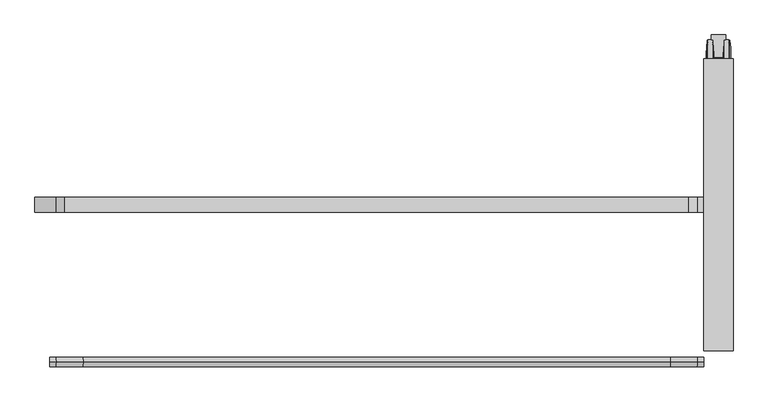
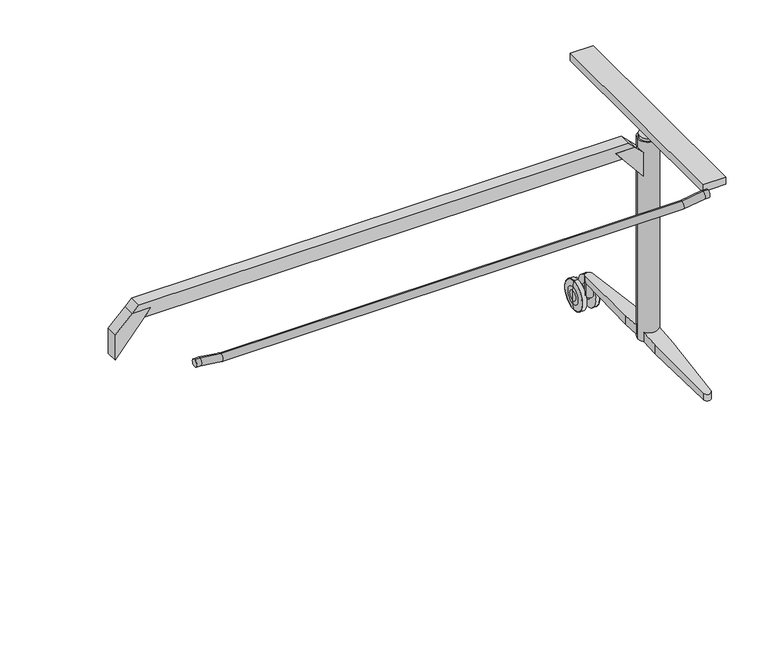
"""IFC4 building model written with IfcOpenShell, lengths in millimetres: furniture geometry, Table_Foldable_Wilkhahn_TimetableLift : 1600w x 800d (615/00)."""

from ifc_helpers import new_model, si_unit, point, frame, frame_2d, origin, place, context, project, spatial, polyline, circle_curve, ellipse_curve, trimmed, segment, composite_curve, outline, extrude, source, transform, mapped, element, save
from ifc_brep_helpers import plane_surface, cylinder_surface, revolved_surface, advanced_brep


def furniture_21161f99(model_context):
    return source(origin(), model_context, "Body", "SolidModel", [
        advanced_brep(
        [(670.4530674, 420.9511544, 26.9613134), (670.4530674, 420.9511544, 53.0387194), (670.4530674, 420.9511544, 40.0000164), (672.5845915, 420.9511544, 0.8972162), (672.5845915, 420.9511544, 79.1028166), (671.0121742, 420.9511544, 63.8876748), (671.0121742, 420.9511544, 16.1123581), (683.5439759, 420.9511544, 1.43e-05), (683.5439759, 420.9511544, 80.0000185), (673.5792938, 420.9511544, 80.0000185), (673.5792938, 420.9511544, 1.43e-05), (685.4530966, 420.9511544, 20.9999281), (685.4530966, 420.9511544, 59.0001048), (685.4530966, 420.9511544, 32.3463502), (685.4530966, 420.9511544, 47.6536826), (705.3531174, 420.9511544, 32.3463502), (705.3531174, 420.9511544, 47.6536826), (705.3531174, 420.9511544, 20.9999281), (705.3531174, 420.9511544, 59.0001048), (707.2622381, 420.9511544, 1.43e-05), (707.2622381, 420.9511544, 80.0000185), (716.3249398, 420.9511544, 1.43e-05), (716.3249398, 420.9511544, 80.0000185), (719.7942336, 420.9511544, 16.1142331), (719.7942336, 420.9511544, 63.8857997), (718.3143443, 420.9511544, 78.2056147), (718.3143443, 420.9511544, 1.7944182), (720.3531466, 420.9511544, 40.0000164), (720.3531466, 420.9511544, 53.0406045), (720.3531466, 420.9511544, 26.9594284)],
        [
            (0, 1, circle_curve(frame((670.4530674, 420.9511544, 40.0000164), z_axis=(-1.0, 0.0, 0.0), x_axis=(0.0, 0.0, 1.0)), 13.038703)),
            (1, 2),
            (2, 0),
            (1, 0, circle_curve(frame((670.4530674, 420.9511544, 40.0000164), z_axis=(-1.0, 0.0, 0.0), x_axis=(0.0, 0.0, 1.0)), 13.038703)),
            (3, 4, circle_curve(frame((672.5845915, 420.9511544, 40.0000164), z_axis=(-1.0, 0.0, 0.0), x_axis=(0.0, 0.0, 1.0)), 39.1028002)),
            (4, 5),
            (5, 6, circle_curve(frame((671.0121742, 420.9511544, 40.0000164), z_axis=(1.0, 0.0, 0.0), x_axis=(0.0, 0.0, 1.0)), 23.8876584)),
            (6, 3),
            (4, 3, circle_curve(frame((672.5845915, 420.9511544, 40.0000164), z_axis=(-1.0, 0.0, 0.0), x_axis=(0.0, 0.0, 1.0)), 39.1028002)),
            (6, 5, circle_curve(frame((671.0121742, 420.9511544, 40.0000164), z_axis=(1.0, 0.0, 0.0), x_axis=(0.0, 0.0, 1.0)), 23.8876584)),
            (7, 8, circle_curve(frame((683.5439759, 420.9511544, 40.0000164), z_axis=(-1.0, 0.0, 0.0), x_axis=(0.0, 0.0, 1.0)), 40.0000021)),
            (8, 9),
            (9, 10, circle_curve(frame((673.5792938, 420.9511544, 40.0000164), z_axis=(1.0, 0.0, 0.0), x_axis=(0.0, 0.0, 1.0)), 40.0000021)),
            (10, 7),
            (8, 7, circle_curve(frame((683.5439759, 420.9511544, 40.0000164), z_axis=(-1.0, 0.0, 0.0), x_axis=(0.0, 0.0, 1.0)), 40.0000021)),
            (10, 9, circle_curve(frame((673.5792938, 420.9511544, 40.0000164), z_axis=(1.0, 0.0, 0.0), x_axis=(0.0, 0.0, 1.0)), 40.0000021)),
            (11, 12, circle_curve(frame((685.4530966, 420.9511544, 40.0000164), z_axis=(-1.0, 0.0, 0.0), x_axis=(0.0, 0.0, 1.0)), 19.0000883)),
            (12, 8),
            (7, 11),
            (12, 11, circle_curve(frame((685.4530966, 420.9511544, 40.0000164), z_axis=(-1.0, 0.0, 0.0), x_axis=(0.0, 0.0, 1.0)), 19.0000883)),
            (13, 14, circle_curve(frame((685.4530966, 420.9511544, 40.0000164), z_axis=(-1.0, 0.0, 0.0), x_axis=(0.0, 0.0, 1.0)), 7.6536662)),
            (14, 12),
            (11, 13),
            (14, 13, circle_curve(frame((685.4530966, 420.9511544, 40.0000164), z_axis=(-1.0, 0.0, 0.0), x_axis=(0.0, 0.0, 1.0)), 7.6536662)),
            (15, 16, circle_curve(frame((705.3531174, 420.9511544, 40.0000164), z_axis=(-1.0, 0.0, 0.0), x_axis=(0.0, 0.0, 1.0)), 7.6536662)),
            (16, 14),
            (13, 15),
            (16, 15, circle_curve(frame((705.3531174, 420.9511544, 40.0000164), z_axis=(-1.0, 0.0, 0.0), x_axis=(0.0, 0.0, 1.0)), 7.6536662)),
            (17, 18, circle_curve(frame((705.3531174, 420.9511544, 40.0000164), z_axis=(-1.0, 0.0, 0.0), x_axis=(0.0, 0.0, 1.0)), 19.0000883)),
            (18, 16),
            (15, 17),
            (18, 17, circle_curve(frame((705.3531174, 420.9511544, 40.0000164), z_axis=(-1.0, 0.0, 0.0), x_axis=(0.0, 0.0, 1.0)), 19.0000883)),
            (19, 20, circle_curve(frame((707.2622381, 420.9511544, 40.0000164), z_axis=(-1.0, 0.0, 0.0), x_axis=(0.0, 0.0, 1.0)), 40.0000021)),
            (20, 18),
            (17, 19),
            (20, 19, circle_curve(frame((707.2622381, 420.9511544, 40.0000164), z_axis=(-1.0, 0.0, 0.0), x_axis=(0.0, 0.0, 1.0)), 40.0000021)),
            (21, 22, circle_curve(frame((716.3249398, 420.9511544, 40.0000164), z_axis=(-1.0, 0.0, 0.0), x_axis=(0.0, 0.0, 1.0)), 40.0000021)),
            (22, 20),
            (19, 21),
            (22, 21, circle_curve(frame((716.3249398, 420.9511544, 40.0000164), z_axis=(-1.0, 0.0, 0.0), x_axis=(0.0, 0.0, 1.0)), 40.0000021)),
            (23, 24, circle_curve(frame((719.7942336, 420.9511544, 40.0000164), z_axis=(-1.0, 0.0, 0.0), x_axis=(0.0, 0.0, 1.0)), 23.8857833)),
            (24, 25),
            (25, 26, circle_curve(frame((718.3143443, 420.9511544, 40.0000164), z_axis=(1.0, 0.0, 0.0), x_axis=(0.0, 0.0, 1.0)), 38.2055982)),
            (26, 23),
            (24, 23, circle_curve(frame((719.7942336, 420.9511544, 40.0000164), z_axis=(-1.0, 0.0, 0.0), x_axis=(0.0, 0.0, 1.0)), 23.8857833)),
            (26, 25, circle_curve(frame((718.3143443, 420.9511544, 40.0000164), z_axis=(1.0, 0.0, 0.0), x_axis=(0.0, 0.0, 1.0)), 38.2055982)),
            (27, 28),
            (28, 29, circle_curve(frame((720.3531466, 420.9511544, 40.0000164), z_axis=(1.0, 0.0, 0.0), x_axis=(0.0, 0.0, 1.0)), 13.0405881)),
            (29, 27),
            (29, 28, circle_curve(frame((720.3531466, 420.9511544, 40.0000164), z_axis=(1.0, 0.0, 0.0), x_axis=(0.0, 0.0, 1.0)), 13.0405881)),
            (5, 1, circle_curve(frame((775.9896451, 420.9511544, 53.0387194), z_axis=(0.0, -1.0, 0.0), x_axis=(-1.0, 0.0, 0.0)), 105.5365777)),
            (0, 6, circle_curve(frame((775.9896451, 420.9511544, 26.9613134), z_axis=(0.0, -1.0, 0.0), x_axis=(-1.0, 0.0, 0.0)), 105.5365777)),
            (9, 4, circle_curve(frame((673.5792938, 420.9511544, 79.0000185), z_axis=(0.0, -1.0, 0.0), x_axis=(-1.0, 0.0, 0.0)), 1.0)),
            (3, 10, circle_curve(frame((673.5792938, 420.9511544, 1.0000143), z_axis=(0.0, -1.0, 0.0), x_axis=(-1.0, 0.0, 0.0)), 1.0)),
            (25, 22, circle_curve(frame((716.3249398, 420.9511544, 78.0000185), z_axis=(0.0, -1.0, 0.0), x_axis=(-1.0, 0.0, 0.0)), 2.0)),
            (21, 26, circle_curve(frame((716.3249398, 420.9511544, 2.0000143), z_axis=(0.0, -1.0, 0.0), x_axis=(-1.0, 0.0, 0.0)), 2.0)),
            (28, 24, circle_curve(frame((614.8531466, 420.9511544, 53.0406045), z_axis=(0.0, -1.0, 0.0), x_axis=(-1.0, 0.0, 0.0)), 105.5)),
            (23, 29, circle_curve(frame((614.8531466, 420.9511544, 26.9594284), z_axis=(0.0, -1.0, 0.0), x_axis=(-1.0, 0.0, 0.0)), 105.5)),
        ],
        [
            plane_surface(frame((670.4530674, 420.9511544, 40.0000164), z_axis=(-1.0, 0.0, 0.0), x_axis=(0.0, 0.0, 1.0))),
            revolved_surface(polyline([(671.0121742, 420.9511544, 63.8876748), (672.5845915, 420.9511544, 79.1028166)]), (736.1531192, 420.9511544, 40.0000164), (1.0, 0.0, 0.0)),
            cylinder_surface(frame((736.1531192, 420.9511544, 40.0000164), z_axis=(1.0, 0.0, 0.0), x_axis=(0.0, 0.0, 1.0)), 40.0000021),
            revolved_surface(polyline([(683.5439759, 420.9511544, 80.0000185), (685.4530966, 420.9511544, 59.0001048)]), (736.1531192, 420.9511544, 40.0000164), (1.0, 0.0, 0.0)),
            plane_surface(frame((685.4530966, 420.9511544, 40.0000164), z_axis=(1.0, 0.0, 0.0), x_axis=(0.0, 0.0, 1.0))),
            cylinder_surface(frame((736.1531192, 420.9511544, 40.0000164), z_axis=(1.0, 0.0, 0.0), x_axis=(0.0, 0.0, 1.0)), 7.6536662),
            plane_surface(frame((705.3531174, 420.9511544, 40.0000164), z_axis=(-1.0, 0.0, 0.0), x_axis=(0.0, 0.0, 1.0))),
            revolved_surface(polyline([(705.3531174, 420.9511544, 59.0001048), (707.2622381, 420.9511544, 80.0000185)]), (736.1531192, 420.9511544, 40.0000164), (1.0, 0.0, 0.0)),
            revolved_surface(polyline([(718.3143443, 420.9511544, 78.2056147), (719.7942336, 420.9511544, 63.8857997)]), (736.1531192, 420.9511544, 40.0000164), (1.0, 0.0, 0.0)),
            plane_surface(frame((720.3531466, 420.9511544, 40.0000164), z_axis=(1.0, 0.0, 0.0), x_axis=(0.0, 0.0, 1.0))),
            revolved_surface(trimmed(ellipse_curve(frame((775.9896451, 420.9511544, 53.0387194), z_axis=(0.0, 1.0, 0.0), x_axis=(-1.0, 0.0, 0.0)), 105.5365777, 105.5365777), [point((670.4530674, 420.9511544, 53.0387194))], [point((671.0121742, 420.9511544, 63.8876748))], True, "CARTESIAN"), (736.1531192, 420.9511544, 40.0000164), (1.0, 0.0, 0.0)),
            revolved_surface(trimmed(ellipse_curve(frame((673.5792938, 420.9511544, 79.0000185), z_axis=(0.0, 1.0, 0.0), x_axis=(-1.0, 0.0, 0.0)), 1.0, 1.0), [point((672.5845915, 420.9511544, 79.1028166))], [point((673.5792938, 420.9511544, 80.0000185))], True, "CARTESIAN"), (736.1531192, 420.9511544, 40.0000164), (1.0, 0.0, 0.0)),
            revolved_surface(trimmed(ellipse_curve(frame((716.3249398, 420.9511544, 78.0000185), z_axis=(0.0, 1.0, 0.0), x_axis=(-1.0, 0.0, 0.0)), 2.0, 2.0), [point((716.3249398, 420.9511544, 80.0000185))], [point((718.3143443, 420.9511544, 78.2056147))], True, "CARTESIAN"), (736.1531192, 420.9511544, 40.0000164), (1.0, 0.0, 0.0)),
            revolved_surface(trimmed(ellipse_curve(frame((614.8531466, 420.9511544, 53.0406045), z_axis=(0.0, 1.0, 0.0), x_axis=(-1.0, 0.0, 0.0)), 105.5, 105.5), [point((719.7942336, 420.9511544, 63.8857997))], [point((720.3531466, 420.9511544, 53.0406045))], True, "CARTESIAN"), (736.1531192, 420.9511544, 40.0000164), (1.0, 0.0, 0.0)),
        ],
        [
            (0, [[1, 2, 3]]),
            (0, [[4, -3, -2]]),
            (1, [[5, 6, 7, 8]]),
            (1, [[9, -8, 10, -6]]),
            (2, [[11, 12, 13, 14]]),
            (2, [[15, -14, 16, -12]]),
            (3, [[17, 18, -11, 19]]),
            (3, [[20, -19, -15, -18]]),
            (4, [[21, 22, -17, 23]]),
            (4, [[24, -23, -20, -22]]),
            (5, [[25, 26, -21, 27]]),
            (5, [[28, -27, -24, -26]]),
            (6, [[29, 30, -25, 31]]),
            (6, [[32, -31, -28, -30]]),
            (7, [[33, 34, -29, 35]]),
            (7, [[36, -35, -32, -34]]),
            (2, [[37, 38, -33, 39]]),
            (2, [[40, -39, -36, -38]]),
            (8, [[41, 42, 43, 44]]),
            (8, [[45, -44, 46, -42]]),
            (9, [[47, 48, 49]]),
            (9, [[-49, 50, -47]]),
            (10, [[-7, 51, -1, 52]]),
            (10, [[-10, -52, -4, -51]]),
            (11, [[-13, 53, -5, 54]]),
            (11, [[-16, -54, -9, -53]]),
            (12, [[-43, 55, -37, 56]]),
            (12, [[-46, -56, -40, -55]]),
            (13, [[-48, 57, -41, 58]]),
            (13, [[-50, -58, -45, -57]]),
        ],
    ),
        advanced_brep(
        [(715.0000252, 110.1174444, 100.5064747), (715.0000252, 110.1174444, 125.9916346), (715.0000252, 48.667977, 121.299221), (715.0000252, 48.667977, 97.6104428), (675.0000252, 110.1174444, 125.9916346), (675.0000252, 110.1174444, 100.5064747), (675.0000252, 60.8207913, 98.1831888), (675.0000252, 60.8207913, 122.227236), (705.3449615, -138.0675149, 88.8098467), (685.2789925, -138.0675149, 88.8098467), (685.3284401, -139.0242798, 106.9666363), (705.2954923, -139.0242831, 106.9666361), (705.2954923, -139.0242831, 88.8098467), (685.3284401, -139.0242798, 88.8098467)],
        [
            (0, 1),
            (1, 2),
            (2, 3),
            (3, 0),
            (4, 5),
            (5, 6),
            (6, 7),
            (7, 4),
            (5, 0),
            (3, 8),
            (8, 9),
            (9, 6),
            (1, 4),
            (7, 10),
            (10, 11, ellipse_curve(frame((695.3119663, -138.4505156, 107.0104502), z_axis=(0.0, -0.07614048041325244, 0.9970971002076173), x_axis=(0.0, -0.9970971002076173, -0.07614048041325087)), 10.0291135, 10.0)),
            (11, 2),
            (8, 12),
            (12, 13, circle_curve(frame((695.3119663, -138.4505156, 88.8098467), z_axis=(0.0, 0.0, -1.0), x_axis=(-1.0, 0.0, 0.0)), 10.0)),
            (13, 9),
            (13, 10),
            (12, 11),
        ],
        [
            plane_surface(frame((715.0000252, 110.1174444, 100.5064747), z_axis=(1.0, 0.0, 0.0), x_axis=(0.0, 0.9988912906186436, 0.04707642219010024))),
            plane_surface(frame((675.0000252, 110.1174444, 100.5064747), z_axis=(-1.0, 0.0, 0.0), x_axis=(0.0, -0.9988912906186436, -0.04707642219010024))),
            plane_surface(frame((715.0000252, -138.0675149, 88.8098467), z_axis=(0.0, 0.04707642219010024, -0.9988912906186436), x_axis=(-1.0, 0.0, 0.0))),
            plane_surface(frame((715.0000252, 110.1174444, 125.9916346), z_axis=(0.0, -0.07614048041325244, 0.9970971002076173), x_axis=(-1.0, 0.0, 0.0))),
            plane_surface(frame((715.0000252, -149.5346363, 88.8098467), z_axis=(0.0, 0.0, -1.0), x_axis=(-1.0, 0.0, 0.0))),
            plane_surface(frame((685.3284401, -139.0242798, 234.8098558), z_axis=(-0.9986671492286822, -0.05161322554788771, 0.0), x_axis=(0.0, 0.0, -1.0))),
            cylinder_surface(frame((695.3119663, -138.4505156, -14.1901527), z_axis=(0.0, 0.0, -1.0), x_axis=(-1.0, 0.0, 0.0)), 10.0),
            plane_surface(frame((718.1772387, 110.1174444, 234.8098558), z_axis=(0.9986659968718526, -0.05163551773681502, 0.0), x_axis=(0.0, 0.0, -1.0))),
            plane_surface(frame((715.0000252, 110.1174444, 100.5064747), z_axis=(0.0, 1.0, 0.0), x_axis=(-1.0, 0.0, 0.0))),
        ],
        [
            (0, [[1, 2, 3, 4]]),
            (1, [[5, 6, 7, 8]]),
            (2, [[9, -4, 10, 11, 12, -6]]),
            (3, [[13, -8, 14, 15, 16, -2]]),
            (4, [[-11, 17, 18, 19]]),
            (5, [[20, -14, -7, -12, -19]]),
            (6, [[-20, -18, 21, -15]]),
            (7, [[-21, -17, -10, -3, -16]]),
            (8, [[-1, -9, -5, -13]]),
        ],
    ),
        advanced_brep(
        [(715.0000252, 141.7848644, 125.5064747), (715.0000252, 141.7848644, 100.5064747), (715.0000252, 203.2343319, 97.6104428), (715.0000252, 203.2343319, 120.860673), (675.0000252, 141.7848644, 100.5064747), (675.0000252, 141.7848644, 125.5064747), (675.0000252, 191.0815176, 121.7794696), (675.0000252, 191.0815176, 98.1831888), (685.2789925, 389.9698238, 88.8098467), (705.3449615, 389.9698238, 88.8098467), (705.2954923, 390.926592, 106.6704598), (685.3284401, 390.9265887, 106.6704601), (685.3284401, 390.9265887, 88.8098467), (705.2954923, 390.926592, 88.8098467)],
        [
            (0, 1),
            (1, 2),
            (2, 3),
            (3, 0),
            (4, 5),
            (5, 6),
            (6, 7),
            (7, 4),
            (1, 4),
            (7, 8),
            (8, 9),
            (9, 2),
            (0, 5),
            (3, 10),
            (10, 11, ellipse_curve(frame((695.3119663, 390.3528245, 106.7138387), z_axis=(0.0, 0.07538846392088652, 0.9971542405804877), x_axis=(0.0, 0.9971542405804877, -0.07538846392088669)), 10.0285388, 10.0)),
            (11, 6),
            (8, 12),
            (12, 13, circle_curve(frame((695.3119663, 390.3528245, 88.8098467), z_axis=(0.0, 0.0, -1.0), x_axis=(-1.0, 0.0, 0.0)), 10.0)),
            (13, 9),
            (11, 12),
            (10, 13),
        ],
        [
            plane_surface(frame((715.0000252, 110.1174444, 100.5064747), z_axis=(1.0, 0.0, 0.0), x_axis=(0.0, 0.9988912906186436, 0.04707642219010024))),
            plane_surface(frame((675.0000252, 110.1174444, 100.5064747), z_axis=(-1.0, 0.0, 0.0), x_axis=(0.0, -0.9988912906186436, -0.04707642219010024))),
            plane_surface(frame((715.0000252, 141.7848644, 100.5064747), z_axis=(0.0, -0.047076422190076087, -0.9988912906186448), x_axis=(-1.0, 0.0, 0.0))),
            plane_surface(frame((715.0000252, 141.7848644, 125.5064747), z_axis=(0.0, -1.0, 0.0), x_axis=(-1.0, 0.0, 0.0))),
            plane_surface(frame((715.0000252, 401.4369452, 105.8758392), z_axis=(0.0, 0.07538846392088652, 0.9971542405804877), x_axis=(-1.0, 0.0, 0.0))),
            plane_surface(frame((715.0000252, 389.9698238, 88.8098467), z_axis=(0.0, 0.0, -1.0), x_axis=(-1.0, 0.0, 0.0))),
            plane_surface(frame((672.5013837, 142.7351655, 234.8098558), z_axis=(-0.9986671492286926, 0.05161322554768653, 0.0), x_axis=(0.0, 0.0, -1.0))),
            cylinder_surface(frame((695.3119663, 390.3528245, -14.1901527), z_axis=(0.0, 0.0, -1.0), x_axis=(-1.0, 0.0, 0.0)), 10.0),
            plane_surface(frame((705.2954923, 390.926592, 234.8098558), z_axis=(0.9986659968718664, 0.05163551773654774, 0.0), x_axis=(0.0, 0.0, -1.0))),
        ],
        [
            (0, [[1, 2, 3, 4]]),
            (1, [[5, 6, 7, 8]]),
            (2, [[9, -8, 10, 11, 12, -2]]),
            (3, [[-1, 13, -5, -9]]),
            (4, [[-13, -4, 14, 15, 16, -6]]),
            (5, [[-11, 17, 18, 19]]),
            (6, [[20, -17, -10, -7, -16]]),
            (7, [[-20, -15, 21, -18]]),
            (8, [[-21, -14, -3, -12, -19]]),
        ],
    ),
        extrude(outline(composite_curve([segment(trimmed(circle_curve(frame_2d((695.0000252, 125.9511544)), 22.0748856), [point((717.0749108, 125.9511544))], [point((672.9251395, 125.9511544))], False, "CARTESIAN"), True, "CONTINUOUS"), segment(trimmed(circle_curve(frame_2d((695.0000252, 125.9511544)), 22.0748856), [point((672.9251395, 125.9511544))], [point((717.0749108, 125.9511544))], False, "CARTESIAN"), True, "CONTINUOUS")], self_intersect=False)), frame((0.0, 0.0, 648.5142032), z_axis=(0.0, 0.0, 1.0), x_axis=(1.0, 0.0, 0.0)), (0.0, 0.0, 1.0), 7.7231854),
        extrude(outline(polyline([(46.8012701, 709.9796901), (46.8012701, 680.8589951), (33.7579803, 683.5602115), (33.7579803, 707.2784737), (46.8012701, 709.9796901)])), frame((0.0, 420.9511544, 0.0), z_axis=(0.0, 1.0, 0.0), x_axis=(0.0, 0.0, 1.0)), (0.0, 0.0, 1.0), 50.0),
        extrude(outline(composite_curve([segment(trimmed(circle_curve(frame_2d((695.0000252, 125.9511544)), 21.8066495), [point((716.8066747, 125.9511544))], [point((673.1933756, 125.9511544))], False, "CARTESIAN"), True, "CONTINUOUS"), segment(trimmed(circle_curve(frame_2d((695.0000252, 125.9511544)), 21.8066495), [point((673.1933756, 125.9511544))], [point((716.8066747, 125.9511544))], False, "CARTESIAN"), True, "CONTINUOUS")], self_intersect=False)), frame((0.0, 0.0, 672.2302641), z_axis=(0.0, 0.0, 1.0), x_axis=(1.0, 0.0, 0.0)), (0.0, 0.0, 1.0), 12.7697121),
        extrude(outline(composite_curve([segment(trimmed(circle_curve(frame_2d((695.5388896, 390.7419216)), 9.5), [point((705.0388896, 390.7419216))], [point((686.0388896, 390.7419216))], False, "CARTESIAN"), True, "CONTINUOUS"), segment(trimmed(circle_curve(frame_2d((695.5388896, 390.7419216)), 9.5), [point((686.0388896, 390.7419216))], [point((705.0388896, 390.7419216))], False, "CARTESIAN"), True, "CONTINUOUS")], self_intersect=False)), frame((0.0, 0.0, 50.0000143), z_axis=(0.0, 0.0, 1.0), x_axis=(1.0, 0.0, 0.0)), (0.0, 0.0, 1.0), 38.8098324),
        extrude(outline(composite_curve([segment(trimmed(circle_curve(frame_2d((695.0, 125.9511544)), 26.0), [point((721.0, 125.9511544))], [point((669.0, 125.9511544))], False, "CARTESIAN"), True, "CONTINUOUS"), segment(trimmed(circle_curve(frame_2d((695.0, 125.9511544)), 26.0), [point((669.0, 125.9511544))], [point((721.0, 125.9511544))], False, "CARTESIAN"), True, "CONTINUOUS")], self_intersect=False)), frame((0.0, 0.0, 100.2652558), z_axis=(0.0, 0.0, 1.0), x_axis=(1.0, 0.0, 0.0)), (0.0, 0.0, 1.0), 548.2489474),
        extrude(outline(polyline([(659.9544603, -634.0633969), (642.2767908, -651.7410664), (642.2767908, -601.7410664), (621.0635874, -619.2634425), (621.0635874, 619.2634425), (642.2767908, 601.7410664), (642.2767908, 651.7410664), (659.9544603, 634.0633969), (659.9544603, -634.0633969)])), frame((0.0, 109.7857178, 0.0), z_axis=(0.0, 1.0, 0.0), x_axis=(0.0, 0.0, 1.0)), (0.0, 0.0, 1.0), 31.1654367),
        extrude(outline(polyline([(599.7944959, 694.2233613), (642.2767908, 651.7410664), (642.2767908, 601.7410664), (530.3144788, 694.2233613), (599.7944959, 694.2233613)])), frame((0.0, 109.7857178, 0.0), z_axis=(0.0, 1.0, 0.0), x_axis=(0.0, 0.0, 1.0)), (0.0, 0.0, 1.0), 31.1654367),
        extrude(outline(polyline([(599.0178177, -695.0000395), (529.3742049, -695.0000395), (642.2767908, -601.7410664), (642.2767908, -651.7410664), (599.0178177, -695.0000395)])), frame((0.0, 109.7857178, 0.0), z_axis=(0.0, 1.0, 0.0), x_axis=(0.0, 0.0, 1.0)), (0.0, 0.0, 1.0), 31.1654367),
        extrude(outline(polyline([(665.0000395, 422.9511544), (725.0000109, 422.9511544), (725.0000109, -171.0488456), (665.0000395, -171.0488456), (665.0000395, 422.9511544)])), frame((0.0, 0.0, 684.9999762), z_axis=(0.0, 0.0, 1.0), x_axis=(1.0, 0.0, 0.0)), (0.0, 0.0, 1.0), 20.0000238),
        advanced_brep(
        [(-665.0000395, -194.1884095, 705.4672388), (-665.0000395, -194.1884095, 685.4672388), (665.0000395, -194.1884095, 705.4672388), (665.0000395, -194.1884095, 685.4672388), (-652.0892263, -194.1884095, 705.4672388), (-653.5361626, -194.1884095, 685.4672388), (-597.0892404, -194.1884095, 697.4672184), (-598.5361767, -194.1884095, 677.4672184), (597.089229, -194.1884095, 697.4672184), (598.5361653, -194.1884095, 677.4672184), (652.0892149, -194.1884095, 705.4672388), (653.5361512, -194.1884095, 685.4672388)],
        [
            (0, 1, circle_curve(frame((-665.0000395, -194.1884095, 695.4672388), z_axis=(-1.0, 0.0, 0.0), x_axis=(0.0, 0.0, -1.0)), 10.0)),
            (1, 0, circle_curve(frame((-665.0000395, -194.1884095, 695.4672388), z_axis=(-1.0, 0.0, 0.0), x_axis=(0.0, 0.0, -1.0)), 10.0)),
            (2, 3, circle_curve(frame((665.0000395, -194.1884095, 695.4672388), z_axis=(1.0, 0.0, 0.0), x_axis=(0.0, 0.0, -1.0)), 10.0)),
            (3, 2, circle_curve(frame((665.0000395, -194.1884095, 695.4672388), z_axis=(1.0, 0.0, 0.0), x_axis=(0.0, 0.0, -1.0)), 10.0)),
            (0, 4),
            (4, 5, ellipse_curve(frame((-652.8126945, -194.1884095, 695.4672388), z_axis=(-0.9973931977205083, 0.0, 0.07215822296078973), x_axis=(-0.07215822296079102, 0.0, -0.9973931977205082)), 10.0261362, 10.0)),
            (5, 1),
            (5, 4, ellipse_curve(frame((-652.8126945, -194.1884095, 695.4672388), z_axis=(-0.9973931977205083, 0.0, 0.07215822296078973), x_axis=(-0.07215822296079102, 0.0, -0.9973931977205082)), 10.0261362, 10.0)),
            (4, 6),
            (6, 7, ellipse_curve(frame((-597.8127086, -194.1884095, 687.4672184), z_axis=(-0.9973931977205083, 0.0, 0.07215822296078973), x_axis=(0.0721582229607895, 0.0, 0.9973931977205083)), 10.0261362, 10.0)),
            (7, 5),
            (7, 6, ellipse_curve(frame((-597.8127086, -194.1884095, 687.4672184), z_axis=(-0.9973931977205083, 0.0, 0.07215822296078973), x_axis=(0.0721582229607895, 0.0, 0.9973931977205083)), 10.0261362, 10.0)),
            (6, 8),
            (8, 9, ellipse_curve(frame((597.8126971, -194.1884095, 687.4672184), z_axis=(-0.9973931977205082, 0.0, -0.07215822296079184), x_axis=(-0.072158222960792, 0.0, 0.9973931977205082)), 10.0261362, 10.0)),
            (9, 7),
            (9, 8, ellipse_curve(frame((597.8126971, -194.1884095, 687.4672184), z_axis=(-0.9973931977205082, 0.0, -0.07215822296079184), x_axis=(-0.072158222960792, 0.0, 0.9973931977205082)), 10.0261362, 10.0)),
            (8, 10),
            (10, 11, ellipse_curve(frame((652.812683, -194.1884095, 695.4672388), z_axis=(-0.9973931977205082, 0.0, -0.07215822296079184), x_axis=(0.07215822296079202, 0.0, -0.9973931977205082)), 10.0261362, 10.0)),
            (11, 9),
            (11, 10, ellipse_curve(frame((652.812683, -194.1884095, 695.4672388), z_axis=(-0.9973931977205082, 0.0, -0.07215822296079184), x_axis=(0.07215822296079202, 0.0, -0.9973931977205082)), 10.0261362, 10.0)),
            (10, 2),
            (3, 11),
        ],
        [
            plane_surface(frame((-665.0000395, -274.0488456, 665.2336856), z_axis=(-1.0, 0.0, 0.0), x_axis=(0.0, 1.0, 0.0))),
            plane_surface(frame((665.0000395, -274.0488456, 665.2336856), z_axis=(1.0, 0.0, 0.0), x_axis=(0.0, 1.0, 0.0))),
            cylinder_surface(frame((-665.0000395, -194.1884095, 695.4672388), z_axis=(-1.0, 0.0, 0.0), x_axis=(0.0, 0.0, -1.0)), 10.0),
            cylinder_surface(frame((-650.6481708, -194.1884095, 695.1523982), z_axis=(-0.989586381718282, 0.0, 0.14394024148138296), x_axis=(-0.14394024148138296, 0.0, -0.989586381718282)), 10.0),
            cylinder_surface(frame((-600.0000099, -194.1884095, 687.4672184), z_axis=(-1.0, 0.0, 0.0), x_axis=(0.0, 0.0, -1.0)), 10.0),
            cylinder_surface(frame((595.6481735, -194.1884095, 687.1523777), z_axis=(-0.9895863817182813, 0.0, -0.14394024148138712), x_axis=(0.14394024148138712, 0.0, -0.9895863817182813)), 10.0),
            cylinder_surface(frame((654.9999844, -194.1884095, 695.4672388), z_axis=(-1.0, 0.0, 0.0), x_axis=(0.0, 0.0, -1.0)), 10.0),
        ],
        [
            (0, [[1, 2]]),
            (1, [[3, 4]]),
            (2, [[-1, 5, 6, 7]]),
            (2, [[-2, -7, 8, -5]]),
            (3, [[-6, 9, 10, 11]]),
            (3, [[-8, -11, 12, -9]]),
            (4, [[-10, 13, 14, 15]]),
            (4, [[-12, -15, 16, -13]]),
            (5, [[-14, 17, 18, 19]]),
            (5, [[-16, -19, 20, -17]]),
            (6, [[-18, 21, -4, 22]]),
            (6, [[-20, -22, -3, -21]]),
        ],
    ),
    ])


if __name__ == "__main__":
    model = new_model("IFC4")
    model_context = context("Model", 3, world=origin())
    ifc_project = project(units=[si_unit("LENGTHUNIT", "METRE", prefix="MILLI")], contexts=[model_context])
    site = spatial("IfcSite", under=ifc_project)
    building = spatial("IfcBuilding", under=site)
    placement = place(None, origin())
    furniture_shape = furniture_21161f99(model_context)
    element("IfcFurniture", 1, ObjectType="Table_Foldable_Wilkhahn_TimetableLift : 1600w x 800d (615/00)", at=placement, inside=building, context=model_context, shape_type="MappedRepresentation", body=[
        mapped(furniture_shape, transform((0.0, 0.0, 0.0), x_axis=(1.0, 0.0, 0.0), y_axis=(0.0, 1.0, 0.0), z_axis=(0.0, 0.0, 1.0))),
    ])
    save(model, "model.ifc")
